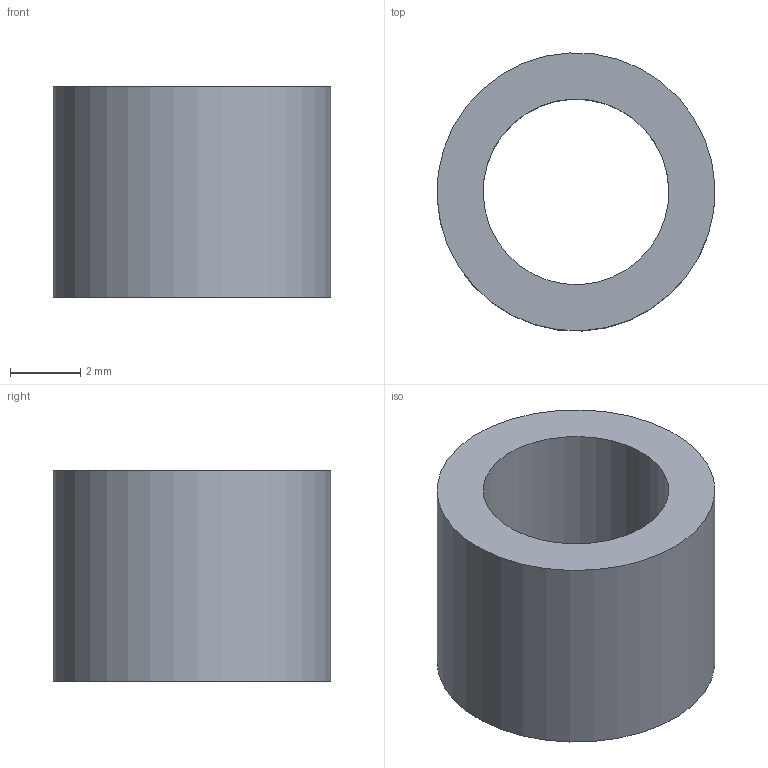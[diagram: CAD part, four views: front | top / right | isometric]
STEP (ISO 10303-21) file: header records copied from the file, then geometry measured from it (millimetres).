
FILE_DESCRIPTION(/* description */ ('STEP AP242 Edition 2','CAx-IF Rec.Pracs.---Representation and Presentation of Product Manufacturing Information (PMI)---4.0---2014-10-13','CAx-IF Rec.Pracs.---3D Tessellated Geometry---0.4---2014-09-14','2;1','CAx-IF Rec.Pracs.---User Defined Attributes---1.5---2016-08-15'),/* implementation_level */ '2;1');
FILE_NAME(/* name */ 'Final Build - Spacer_15',/* time_stamp */ '2026-08-31T23:26:27Z',/* author */ (''),/* organization */ (''),/* preprocessor_version */ 'ST-DEVELOPER v20',/* originating_system */ 'ONSHAPE BY PTC INC, 1.220',/* authorisation */ ' ');
FILE_SCHEMA (('AP242_MANAGED_MODEL_BASED_3D_ENGINEERING_MIM_LF { 1 0 10303 442 3 1 4 }'));
Length unit declared in the file: metre
Products named in the file (1): Spacer_15
Bounding box: 7.93 x 7.93 x 6 mm (x, y, z)
Volume: 164.5 mm3; surface area: 304.4 mm2
Topology: 1 solids, 1 shells, 4 faces, 8 edges, 6 vertices
Faces by surface type: cylinder 2, plane 2
Full cylindrical faces by diameter (mm): 5.3 x1, 7.938 x1
Entity records: 110 total; most frequent: DIRECTION 18, CARTESIAN_POINT 13, AXIS2_PLACEMENT_3D 9, ORIENTED_EDGE 8, EDGE_LOOP 8, FACE_BOUND 8, EDGE_CURVE 4, VERTEX_POINT 4
